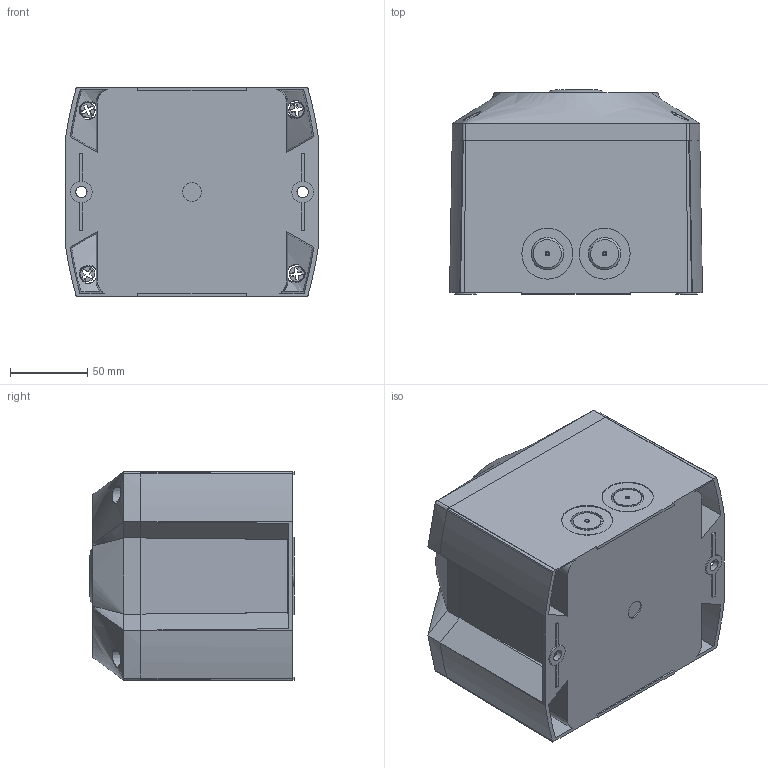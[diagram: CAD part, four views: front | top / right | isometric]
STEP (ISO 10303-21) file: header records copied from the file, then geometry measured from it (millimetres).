
FILE_DESCRIPTION (( 'STEP AP214' ), '1' );
FILE_NAME ('PA5_30304-100.STEP', '2012-01-10T10:04:01', ( ' ' ), ( ' ' ), 'SwSTEP 2.0', 'SolidWorks 2011', '' );
FILE_SCHEMA (( 'AUTOMOTIVE_DESIGN' ));
Length unit declared in the file: millimetre
Products named in the file (1): PA5_30304-100
Bounding box: 163.42 x 132 x 135 mm (x, y, z)
Surface area: 188869.9 mm2 (no closed solid volume)
Topology: 0 solids, 27 shells, 233 faces, 881 edges, 684 vertices
Faces by surface type: plane 131, cone 56, bspline 25, cylinder 16, torus 5
Full cylindrical faces by diameter (mm): 18 x4
Entity records: 14603 total; most frequent: CARTESIAN_POINT 5301, DIRECTION 1253, ORIENTED_EDGE 1206, EDGE_CURVE 830, VERTEX_POINT 665, VECTOR 445, LINE 445, AXIS2_PLACEMENT_3D 404
